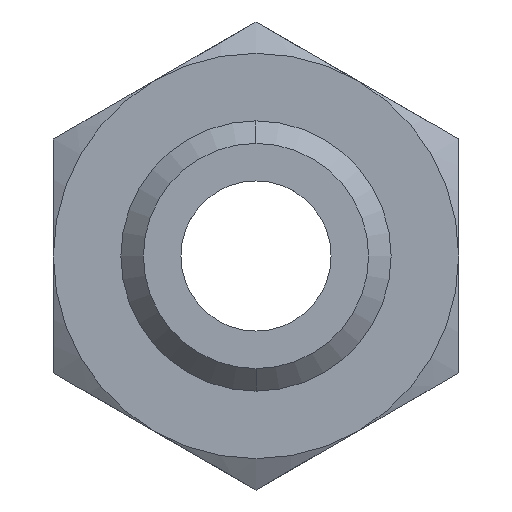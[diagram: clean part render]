
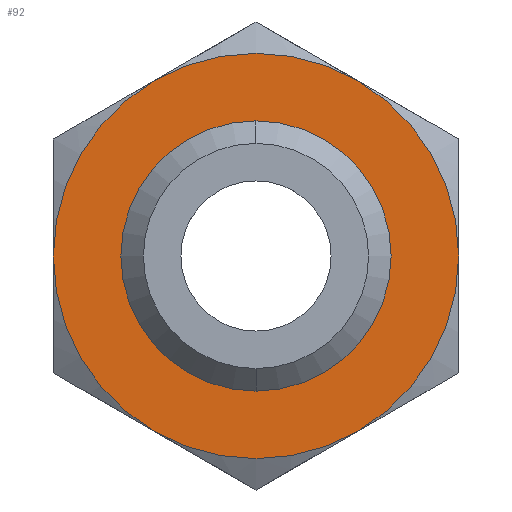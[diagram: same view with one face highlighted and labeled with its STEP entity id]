
A CAD part, left-side view. The second image highlights one B-rep face of the part: STEP entity #92.
In plain terms, the highlighted planar face has unit normal (-1, 0, 0).
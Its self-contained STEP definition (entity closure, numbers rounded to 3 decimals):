
#3=CARTESIAN_POINT('POINT5803',(-5.5,0.,7.5
   ));
#4=VERTEX_POINT('VERTEX5803',#3);
#11=CARTESIAN_POINT('POINT5804',(-5.5,0.,
   -7.5));
#12=VERTEX_POINT('VERTEX5804',#11);
#13=CARTESIAN_POINT('POS8538',(-5.5,0.,0.));
#14=DIRECTION('DIR13086',(1.,0.,0.));
#15=DIRECTION('DIR13087',(0.,0.,1.));
#16=AXIS2_PLACEMENT_3D('AXIS4549',#13,#14,#15);
#17=CIRCLE('ELLIPSE2124',#16,7.5);
#18=EDGE_CURVE('EDGE9206',#12,#4,#17,.T.);
#47=EDGE_CURVE('EDGE9210',#4,#12,#17,.T.);
#52=CARTESIAN_POINT('POINT5806',(-5.5,-6.75,
   -11.691));
#53=VERTEX_POINT('VERTEX5806',#52);
#54=CARTESIAN_POINT('POINT5807',(-5.5,-13.5,
   0.));
#55=VERTEX_POINT('VERTEX5807',#54);
#56=CARTESIAN_POINT('POS8542',(-5.5,0.,0.)
   );
#57=DIRECTION('DIR13093',(-1.,0.,
   0.));
#58=DIRECTION('DIR13094',(0.,1.,
   0.));
#59=AXIS2_PLACEMENT_3D('AXIS4552',#56,#57,#58);
#60=CIRCLE('ELLIPSE2126',#59,13.5);
#61=EDGE_CURVE('EDGE9211',#53,#55,#60,.T.);
#62=ORIENTED_EDGE('COEDGE18417',*,*,#61,.T.);
#63=CARTESIAN_POINT('POINT5808',(-5.5,-6.75,
   11.691));
#64=VERTEX_POINT('VERTEX5808',#63);
#65=EDGE_CURVE('EDGE9212',#55,#64,#60,.T.);
#66=ORIENTED_EDGE('COEDGE18418',*,*,#65,.T.);
#67=CARTESIAN_POINT('POINT5809',(-5.5,6.75,
   11.691));
#68=VERTEX_POINT('VERTEX5809',#67);
#69=EDGE_CURVE('EDGE9213',#64,#68,#60,.T.);
#70=ORIENTED_EDGE('COEDGE18419',*,*,#69,.T.);
#71=CARTESIAN_POINT('POINT5810',(-5.5,13.5,
   0.));
#72=VERTEX_POINT('VERTEX5810',#71);
#73=EDGE_CURVE('EDGE9214',#68,#72,#60,.T.);
#74=ORIENTED_EDGE('COEDGE18420',*,*,#73,.T.);
#75=CARTESIAN_POINT('POINT5811',(-5.5,6.75,
   -11.691));
#76=VERTEX_POINT('VERTEX5811',#75);
#77=EDGE_CURVE('EDGE9215',#72,#76,#60,.T.);
#78=ORIENTED_EDGE('COEDGE18421',*,*,#77,.T.);
#79=EDGE_CURVE('EDGE9216',#76,#53,#60,.T.);
#80=ORIENTED_EDGE('COEDGE18422',*,*,#79,.T.);
#81=EDGE_LOOP('NONE',(#62,#66,#70,#74,#78,#80));
#82=FACE_BOUND('LOOP1',#81,.T.);
#83=ORIENTED_EDGE('COEDGE18423',*,*,#47,.T.);
#84=ORIENTED_EDGE('COEDGE18424',*,*,#18,.T.);
#85=EDGE_LOOP('NONE',(#83,#84));
#86=FACE_BOUND('LOOP1',#85,.T.);
#87=CARTESIAN_POINT('POS8543',(-5.5,0.,
   8.825));
#88=DIRECTION('DIR13095',(-1.,0.,0.));
#89=DIRECTION('DIR13096',(0.,1.,0.));
#90=AXIS2_PLACEMENT_3D('AXIS4553',#87,#88,#89);
#91=PLANE('PLANE1483',#90);
#92=ADVANCED_FACE('FACE3963',(#82,#86),#91,.T.);
